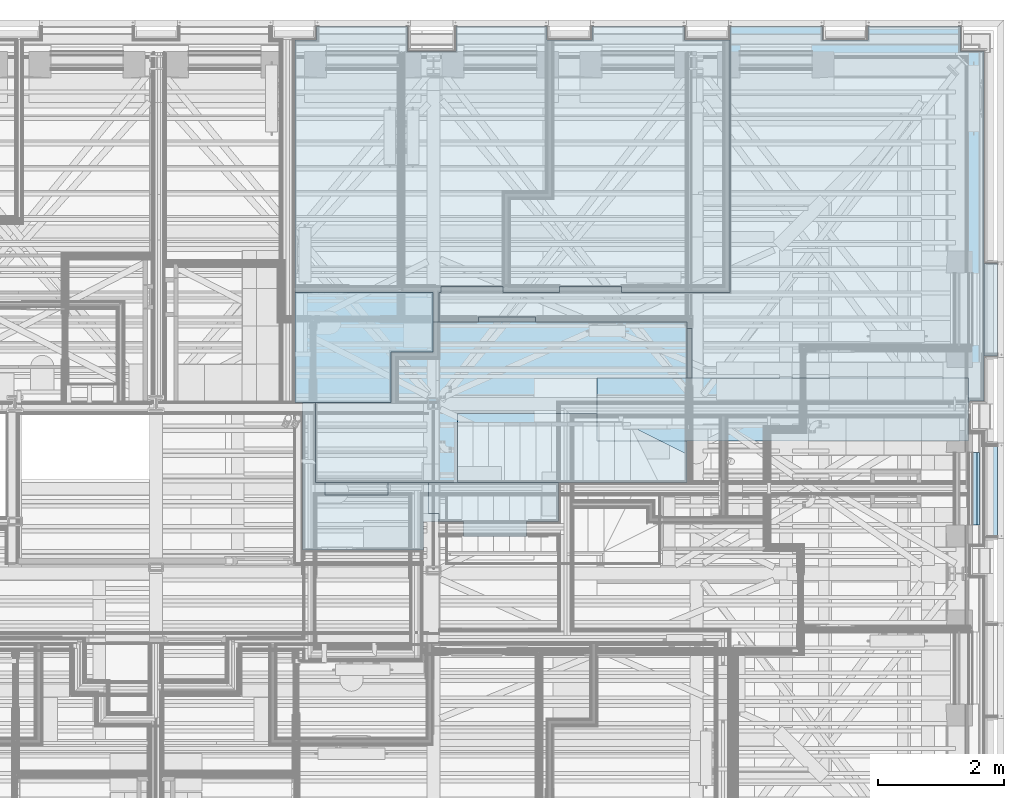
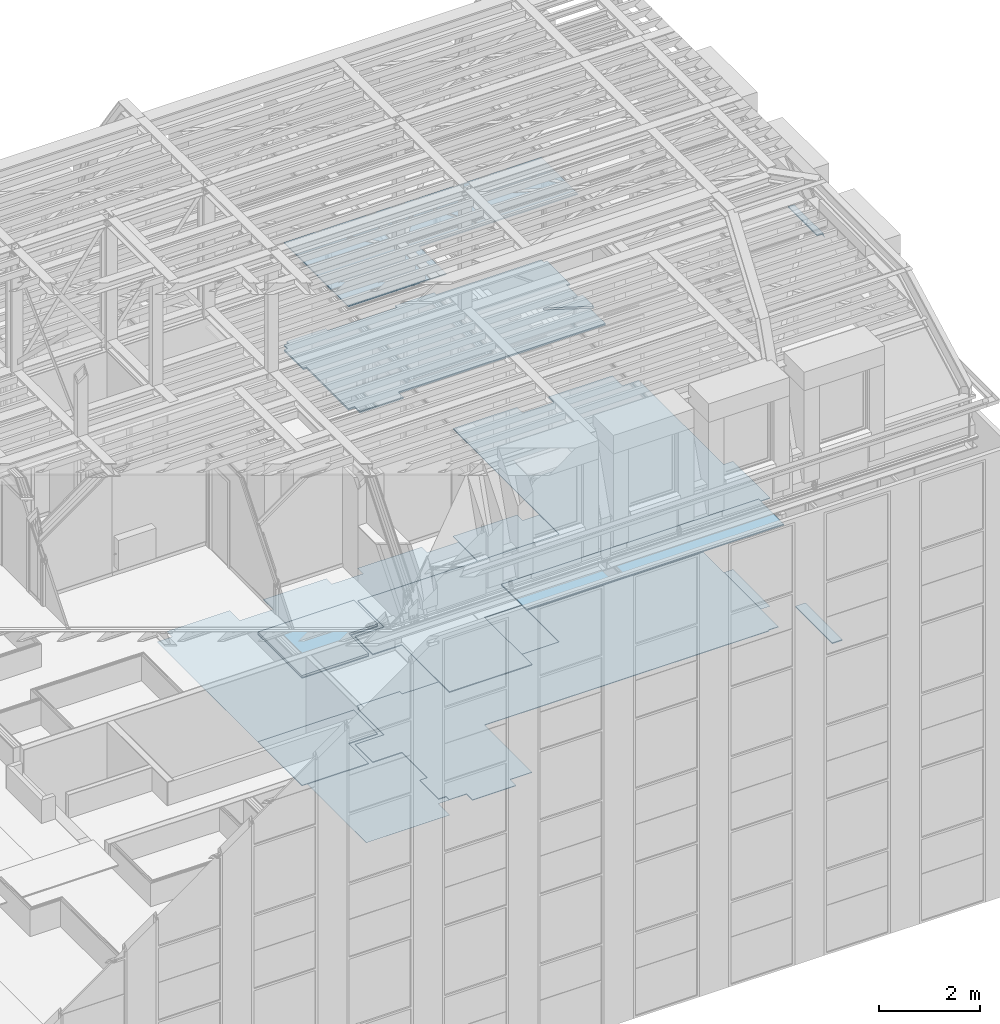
# One storey, part 94 of 183: 16 slabs.
"""IFC2X3 building model written with IfcOpenShell, lengths in metres."""

from ifc_helpers import new_model, entity, si_unit, converted_unit, derived_unit, money_unit, direction, frame, origin_with_axes, place, context, subcontext, project, spatial, faceted_brep, material, type_object, element, save


model = new_model("IFC2X3")

# Units and contexts
model_context = context("Model", 3, precision=1e-05, world=origin_with_axes(), true_north=direction((0.0, 1.0)))
body_context = subcontext(model_context, "Body", "Model", "MODEL_VIEW", scale=1.0)
ifc_project = project(units=[si_unit("LENGTHUNIT", "METRE"), si_unit("AREAUNIT", "SQUARE_METRE"), si_unit("VOLUMEUNIT", "CUBIC_METRE"), si_unit("ABSORBEDDOSEUNIT", "GRAY"), si_unit("AMOUNTOFSUBSTANCEUNIT", "MOLE"), si_unit("DOSEEQUIVALENTUNIT", "SIEVERT"), si_unit("ELECTRICCAPACITANCEUNIT", "FARAD"), si_unit("ELECTRICCHARGEUNIT", "COULOMB"), si_unit("ELECTRICCONDUCTANCEUNIT", "SIEMENS"), si_unit("ELECTRICCURRENTUNIT", "AMPERE"), si_unit("ELECTRICRESISTANCEUNIT", "OHM"), si_unit("ELECTRICVOLTAGEUNIT", "VOLT"), si_unit("ENERGYUNIT", "JOULE"), si_unit("FORCEUNIT", "NEWTON"), si_unit("FREQUENCYUNIT", "HERTZ"), si_unit("ILLUMINANCEUNIT", "LUX"), si_unit("INDUCTANCEUNIT", "HENRY"), si_unit("LUMINOUSFLUXUNIT", "LUMEN"), si_unit("LUMINOUSINTENSITYUNIT", "CANDELA"), si_unit("MAGNETICFLUXDENSITYUNIT", "TESLA"), si_unit("MAGNETICFLUXUNIT", "WEBER"), si_unit("MASSUNIT", "GRAM"), converted_unit("PLANEANGLEUNIT", "degree", entity("IfcReal", 0.0174532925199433), si_unit("PLANEANGLEUNIT", "RADIAN"), dimensions=[0, 0, 0, 0, 0, 0, 0]), si_unit("POWERUNIT", "WATT"), si_unit("PRESSUREUNIT", "PASCAL"), si_unit("RADIOACTIVITYUNIT", "BECQUEREL"), si_unit("SOLIDANGLEUNIT", "STERADIAN"), si_unit("THERMODYNAMICTEMPERATUREUNIT", "KELVIN"), si_unit("TIMEUNIT", "SECOND"), derived_unit("ACCELERATIONUNIT", [(si_unit("LENGTHUNIT", "METRE"), 1), (si_unit("TIMEUNIT", "SECOND"), -2)]), derived_unit("ANGULARVELOCITYUNIT", [(converted_unit("PLANEANGLEUNIT", "degree", entity("IfcReal", 0.0174532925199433), si_unit("PLANEANGLEUNIT", "RADIAN"), dimensions=[0, 0, 0, 0, 0, 0, 0]), 1), (si_unit("TIMEUNIT", "SECOND"), -1)]), derived_unit("CURVATUREUNIT", [(converted_unit("PLANEANGLEUNIT", "degree", entity("IfcReal", 0.0174532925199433), si_unit("PLANEANGLEUNIT", "RADIAN"), dimensions=[0, 0, 0, 0, 0, 0, 0]), 1), (si_unit("LENGTHUNIT", "METRE"), -1)]), derived_unit("DYNAMICVISCOSITYUNIT", [(si_unit("PRESSUREUNIT", "PASCAL"), 1), (si_unit("TIMEUNIT", "SECOND"), 1)]), derived_unit("HEATFLUXDENSITYUNIT", [(si_unit("POWERUNIT", "WATT"), 1), (si_unit("LENGTHUNIT", "METRE"), -2)]), derived_unit("HEATINGVALUEUNIT", [(si_unit("ENERGYUNIT", "JOULE"), 1), (si_unit("MASSUNIT", "GRAM"), -1)]), derived_unit("INTEGERCOUNTRATEUNIT", [(si_unit("TIMEUNIT", "SECOND"), -1)]), derived_unit("IONCONCENTRATIONUNIT", [(si_unit("MASSUNIT", "GRAM"), 1), (si_unit("VOLUMEUNIT", "CUBIC_METRE"), -1)]), derived_unit("ISOTHERMALMOISTURECAPACITYUNIT", [(si_unit("VOLUMEUNIT", "CUBIC_METRE"), 1), (si_unit("MASSUNIT", "GRAM"), -1)]), derived_unit("KINEMATICVISCOSITYUNIT", [(si_unit("AREAUNIT", "SQUARE_METRE"), 1), (si_unit("TIMEUNIT", "SECOND"), -1)]), derived_unit("LINEARFORCEUNIT", [(si_unit("FORCEUNIT", "NEWTON"), 1), (si_unit("LENGTHUNIT", "METRE"), -1)]), derived_unit("LINEARMOMENTUNIT", [(si_unit("FORCEUNIT", "NEWTON"), 1), (si_unit("LENGTHUNIT", "METRE"), -1)]), derived_unit("LINEARSTIFFNESSUNIT", [(si_unit("FORCEUNIT", "NEWTON"), 1), (si_unit("LENGTHUNIT", "METRE"), -1)]), derived_unit("LINEARVELOCITYUNIT", [(si_unit("LENGTHUNIT", "METRE"), 1), (si_unit("TIMEUNIT", "SECOND"), -1)]), derived_unit("LUMINOUSINTENSITYDISTRIBUTIONUNIT", [(si_unit("LUMINOUSINTENSITYUNIT", "CANDELA"), 1), (si_unit("LUMINOUSFLUXUNIT", "LUMEN"), -1)]), derived_unit("MASSDENSITYUNIT", [(si_unit("MASSUNIT", "GRAM"), 1), (si_unit("VOLUMEUNIT", "CUBIC_METRE"), -1)]), derived_unit("MASSFLOWRATEUNIT", [(si_unit("MASSUNIT", "GRAM"), 1), (si_unit("TIMEUNIT", "SECOND"), -1)]), derived_unit("MASSPERLENGTHUNIT", [(si_unit("MASSUNIT", "GRAM"), 1), (si_unit("LENGTHUNIT", "METRE"), -1)]), derived_unit("MODULUSOFELASTICITYUNIT", [(si_unit("FORCEUNIT", "NEWTON"), 1), (si_unit("AREAUNIT", "SQUARE_METRE"), -1)]), derived_unit("MODULUSOFLINEARSUBGRADEREACTIONUNIT", [(si_unit("FORCEUNIT", "NEWTON"), 1), (si_unit("LENGTHUNIT", "METRE"), -2)]), derived_unit("MODULUSOFROTATIONALSUBGRADEREACTIONUNIT", [(si_unit("FORCEUNIT", "NEWTON"), 1), (si_unit("LENGTHUNIT", "METRE"), 1)]), derived_unit("MODULUSOFSUBGRADEREACTIONUNIT", [(si_unit("FORCEUNIT", "NEWTON"), 1), (si_unit("VOLUMEUNIT", "CUBIC_METRE"), -1)]), derived_unit("MOISTUREDIFFUSIVITYUNIT", [(si_unit("VOLUMEUNIT", "CUBIC_METRE"), 1), (si_unit("TIMEUNIT", "SECOND"), -1)]), derived_unit("MOLECULARWEIGHTUNIT", [(si_unit("MASSUNIT", "GRAM"), 1), (si_unit("AMOUNTOFSUBSTANCEUNIT", "MOLE"), -1)]), derived_unit("PLANARFORCEUNIT", [(si_unit("FORCEUNIT", "NEWTON"), 1), (si_unit("LENGTHUNIT", "METRE"), -2)]), derived_unit("ROTATIONALFREQUENCYUNIT", [(si_unit("TIMEUNIT", "SECOND"), -1)]), derived_unit("ROTATIONALMASSUNIT", [(si_unit("MASSUNIT", "GRAM"), 1), (si_unit("LENGTHUNIT", "METRE"), 2)]), derived_unit("ROTATIONALSTIFFNESSUNIT", [(si_unit("FORCEUNIT", "NEWTON"), 1), (si_unit("LENGTHUNIT", "METRE"), 1), (converted_unit("PLANEANGLEUNIT", "degree", entity("IfcReal", 0.0174532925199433), si_unit("PLANEANGLEUNIT", "RADIAN"), dimensions=[0, 0, 0, 0, 0, 0, 0]), -1)]), derived_unit("SECTIONAREAINTEGRALUNIT", [(si_unit("LENGTHUNIT", "METRE"), 5)]), derived_unit("SECTIONMODULUSUNIT", [(si_unit("LENGTHUNIT", "METRE"), 3)]), derived_unit("SHEARMODULUSUNIT", [(si_unit("FORCEUNIT", "NEWTON"), 1), (si_unit("AREAUNIT", "SQUARE_METRE"), -1)]), derived_unit("SOUNDPOWERUNIT", [(si_unit("ENERGYUNIT", "JOULE"), 1), (si_unit("TIMEUNIT", "SECOND"), -1)]), derived_unit("SPECIFICHEATCAPACITYUNIT", [(si_unit("FORCEUNIT", "NEWTON"), 1), (si_unit("MASSUNIT", "GRAM"), -1), (si_unit("THERMODYNAMICTEMPERATUREUNIT", "KELVIN"), -1)]), derived_unit("TEMPERATUREGRADIENTUNIT", [(si_unit("THERMODYNAMICTEMPERATUREUNIT", "KELVIN"), 1), (si_unit("LENGTHUNIT", "METRE"), -1)]), derived_unit("THERMALADMITTANCEUNIT", [(si_unit("POWERUNIT", "WATT"), 1), (si_unit("AREAUNIT", "SQUARE_METRE"), -1), (si_unit("THERMODYNAMICTEMPERATUREUNIT", "KELVIN"), -1)]), derived_unit("THERMALCONDUCTANCEUNIT", [(si_unit("POWERUNIT", "WATT"), 1), (si_unit("LENGTHUNIT", "METRE"), -1), (si_unit("THERMODYNAMICTEMPERATUREUNIT", "KELVIN"), -1)]), derived_unit("THERMALEXPANSIONCOEFFICIENTUNIT", [(si_unit("THERMODYNAMICTEMPERATUREUNIT", "KELVIN"), -1)]), derived_unit("THERMALRESISTANCEUNIT", [(si_unit("AREAUNIT", "SQUARE_METRE"), 1), (si_unit("POWERUNIT", "WATT"), -1)]), derived_unit("THERMALTRANSMITTANCEUNIT", [(si_unit("POWERUNIT", "WATT"), 1), (si_unit("AREAUNIT", "SQUARE_METRE"), -1), (si_unit("THERMODYNAMICTEMPERATUREUNIT", "KELVIN"), -1)]), derived_unit("TORQUEUNIT", [(si_unit("FORCEUNIT", "NEWTON"), 1), (si_unit("LENGTHUNIT", "METRE"), 1)]), derived_unit("VAPORPERMEABILITYUNIT", [(si_unit("MASSUNIT", "GRAM"), 1), (si_unit("TIMEUNIT", "SECOND"), -1)]), derived_unit("VOLUMETRICFLOWRATEUNIT", [(si_unit("VOLUMEUNIT", "CUBIC_METRE"), 1), (si_unit("TIMEUNIT", "SECOND"), -1)]), derived_unit("WARPINGCONSTANTUNIT", [(si_unit("LENGTHUNIT", "METRE"), 6)]), derived_unit("WARPINGMOMENTUNIT", [(si_unit("FORCEUNIT", "NEWTON"), 1), (si_unit("LENGTHUNIT", "METRE"), 2)]), money_unit("GBP")], contexts=[model_context])

# Site, building, storey
site_placement = place(None, origin_with_axes())
site = spatial("IfcSite", under=ifc_project, at=site_placement, Name="Site", CompositionType="ELEMENT")
building_placement = place(site_placement, origin_with_axes())
building = spatial("IfcBuilding", under=site, at=building_placement, Name="Building01", CompositionType="ELEMENT")
storey_placement = place(building_placement, frame((0.0, 0.0, 5.15), z_axis=(0.0, 0.0, 1.0), x_axis=(1.0, 0.0, 0.0)))
storey = spatial("IfcBuildingStorey", under=building, at=storey_placement, Name="1F", CompositionType="ELEMENT", Elevation=5.15)

# Slabs
ifc_material_1 = material(Name="A_BSUK_ExpandedPolystyreneBoards")
slab_type_1 = type_object("IfcSlabType", Name="A-FloorsSlabs A_BSUK_Slabs", PredefinedType="FLOOR")
placement = place(storey_placement, frame((0.0, 0.0, -5.15), z_axis=(0.0, 0.0, 1.0), x_axis=(1.0, 0.0, 0.0)))
element("IfcSlab", 1, at=placement, inside=storey, type_object=slab_type_1, material=ifc_material_1, Name="A-FloorsSlabs A_BSUK_Slabs", ObjectType="CompoundSlabLeaf", context=body_context, shape_type="Brep", body=[
    faceted_brep([(15.83, 8.82, 5.15), (15.83, 8.82, 5.153), (15.708132, 8.82, 5.153), (15.708132, 8.82, 5.15), (15.83, 8.65, 5.15), (15.83, 8.65, 5.153), (15.83, 6.475, 5.15), (15.83, 6.475, 5.153), (17.75, 6.475, 5.15), (17.75, 6.475, 5.153), (17.75, 6.93, 5.15), (17.75, 6.93, 5.153), (18.0, 6.93, 5.15), (18.0, 6.93, 5.153), (18.392, 6.93, 5.15), (18.392, 6.93, 5.153), (18.392, 6.69, 5.15), (18.392, 6.69, 5.153), (19.392, 6.69, 5.15), (19.392, 6.69, 5.153), (19.392, 6.93, 5.15), (19.392, 6.93, 5.153), (19.897661, 6.93, 5.15), (19.897661, 6.93, 5.153), (19.897661, 8.82, 5.15), (19.897661, 8.82, 5.153), (26.432, 8.82, 5.15), (26.432, 8.82, 5.153), (26.432, 8.848, 5.15), (26.432, 8.848, 5.153), (26.662, 8.848, 5.15), (26.662, 8.848, 5.153), (26.662, 9.56218, 5.15), (26.662, 9.56218, 5.153), (26.88, 9.56218, 5.15), (26.88, 9.56218, 5.153), (26.88, 11.03218, 5.15), (26.88, 11.03218, 5.153), (26.662, 11.03218, 5.15), (26.662, 11.03218, 5.153), (26.662, 14.402, 5.15), (26.662, 14.402, 5.153), (26.285, 14.402, 5.15), (26.285, 14.402, 5.153), (26.285, 14.8, 5.15), (26.285, 14.8, 5.153), (24.815, 14.8, 5.15), (24.815, 14.8, 5.153), (24.815, 14.582, 5.15), (24.815, 14.582, 5.153), (24.095, 14.582, 5.15), (24.095, 14.582, 5.153), (24.095, 14.8, 5.15), (24.095, 14.8, 5.153), (22.625, 14.8, 5.15), (22.625, 14.8, 5.153), (22.625, 14.582, 5.15), (22.625, 14.582, 5.153), (21.905, 14.582, 5.15), (21.905, 14.582, 5.153), (21.905, 14.8, 5.15), (21.905, 14.8, 5.153), (20.435, 14.8, 5.15), (20.435, 14.8, 5.153), (20.435, 14.582, 5.15), (20.435, 14.582, 5.153), (19.715, 14.582, 5.15), (19.715, 14.582, 5.153), (19.715, 14.8, 5.15), (19.715, 14.8, 5.153), (18.268, 14.8, 5.15), (18.268, 14.8, 5.153), (18.268, 14.402, 5.15), (18.268, 14.402, 5.153), (17.502, 14.402, 5.15), (17.502, 14.402, 5.153), (17.502, 14.8, 5.15), (17.502, 14.8, 5.153), (16.055, 14.8, 5.15), (16.055, 14.8, 5.153), (16.055, 14.582, 5.15), (16.055, 14.582, 5.153), (15.708132, 14.582, 5.15), (15.708132, 14.582, 5.153)], [[[0, 1, 2, 3]], [[4, 5, 1, 0]], [[6, 7, 5, 4]], [[8, 9, 7, 6]], [[10, 11, 9, 8]], [[12, 13, 11, 10]], [[14, 15, 13, 12]], [[16, 17, 15, 14]], [[18, 19, 17, 16]], [[20, 21, 19, 18]], [[22, 23, 21, 20]], [[24, 25, 23, 22]], [[26, 27, 25, 24]], [[28, 29, 27, 26]], [[30, 31, 29, 28]], [[32, 33, 31, 30]], [[34, 35, 33, 32]], [[36, 37, 35, 34]], [[38, 39, 37, 36]], [[40, 41, 39, 38]], [[42, 43, 41, 40]], [[44, 45, 43, 42]], [[46, 47, 45, 44]], [[48, 49, 47, 46]], [[50, 51, 49, 48]], [[52, 53, 51, 50]], [[54, 55, 53, 52]], [[56, 57, 55, 54]], [[58, 59, 57, 56]], [[60, 61, 59, 58]], [[62, 63, 61, 60]], [[64, 65, 63, 62]], [[66, 67, 65, 64]], [[68, 69, 67, 66]], [[70, 71, 69, 68]], [[72, 73, 71, 70]], [[74, 75, 73, 72]], [[76, 77, 75, 74]], [[78, 79, 77, 76]], [[80, 81, 79, 78]], [[82, 83, 81, 80]], [[3, 2, 83, 82]], [[1, 5, 7, 9, 11, 13, 15, 17, 19, 21, 23, 25, 27, 29, 31, 33, 35, 37, 39, 41, 43, 45, 47, 49, 51, 53, 55, 57, 59, 61, 63, 65, 67, 69, 71, 73, 75, 77, 79, 81, 83, 2]], [[3, 82, 80, 78, 76, 74, 72, 70, 68, 66, 64, 62, 60, 58, 56, 54, 52, 50, 48, 46, 44, 42, 40, 38, 36, 34, 32, 30, 28, 26, 24, 22, 20, 18, 16, 14, 12, 10, 8, 6, 4, 0]]]),
])
ifc_material_2 = material(Name="A_BSUK_Parquet_Floor")
element("IfcSlab", 2, at=placement, inside=storey, type_object=slab_type_1, material=ifc_material_2, Name="A-FloorsSlabs A_BSUK_Slabs", ObjectType="CompoundSlabLeaf", context=body_context, shape_type="Brep", body=[
    faceted_brep([(18.392, 6.69, 5.153), (18.392, 6.69, 5.165), (18.392, 6.93, 5.165), (18.392, 6.93, 5.153), (19.392, 6.69, 5.153), (19.392, 6.69, 5.165), (19.392, 6.93, 5.153), (19.392, 6.93, 5.165), (19.897661, 6.93, 5.153), (19.897661, 6.93, 5.165), (19.897661, 8.82, 5.153), (19.897661, 8.82, 5.165), (26.432, 8.82, 5.153), (26.432, 8.82, 5.165), (26.432, 8.848, 5.153), (26.432, 8.848, 5.165), (26.662, 8.848, 5.153), (26.662, 8.848, 5.165), (26.662, 9.56218, 5.153), (26.662, 9.56218, 5.165), (26.662, 11.03218, 5.153), (26.662, 11.03218, 5.165), (26.662, 14.402, 5.153), (26.662, 14.402, 5.165), (26.285, 14.402, 5.153), (26.285, 14.402, 5.165), (26.285, 14.8, 5.153), (26.285, 14.8, 5.165), (24.815, 14.8, 5.153), (24.815, 14.8, 5.165), (24.815, 14.582, 5.153), (24.815, 14.582, 5.165), (24.095, 14.582, 5.153), (24.095, 14.582, 5.165), (24.095, 14.8, 5.153), (24.095, 14.8, 5.165), (22.625, 14.8, 5.153), (22.625, 14.8, 5.165), (22.625, 10.57, 5.153), (22.625, 10.57, 5.165), (20.902284, 10.57, 5.153), (20.902284, 10.57, 5.165), (20.902284, 10.665, 5.153), (20.902284, 10.665, 5.165), (19.918284, 10.665, 5.153), (19.918284, 10.665, 5.165), (19.918284, 10.57, 5.153), (19.918284, 10.57, 5.165), (19.017398, 10.57, 5.153), (19.017398, 10.57, 5.165), (19.017398, 10.665, 5.153), (19.017398, 10.665, 5.165), (18.033398, 10.665, 5.153), (18.033398, 10.665, 5.165), (18.033398, 10.57, 5.153), (18.033398, 10.57, 5.165), (18.0, 10.57, 5.153), (18.0, 10.57, 5.165), (18.0, 9.967396, 5.153), (18.0, 9.967396, 5.165), (18.0, 9.525, 5.153), (18.0, 9.525, 5.165), (17.333132, 9.525, 5.153), (17.333132, 9.525, 5.165), (17.333132, 8.82, 5.153), (17.333132, 8.82, 5.165), (17.905, 8.82, 5.153), (17.905, 8.82, 5.165), (18.0, 8.82, 5.153), (18.0, 8.82, 5.165), (18.0, 7.808, 5.153), (18.0, 7.808, 5.165), (17.83, 7.808, 5.153), (17.83, 7.808, 5.165), (17.83, 7.058, 5.153), (17.83, 7.058, 5.165), (18.0, 7.058, 5.153), (18.0, 7.058, 5.165), (18.0, 6.93, 5.153), (18.0, 6.93, 5.165)], [[[0, 1, 2, 3]], [[4, 5, 1, 0]], [[6, 7, 5, 4]], [[8, 9, 7, 6]], [[10, 11, 9, 8]], [[12, 13, 11, 10]], [[14, 15, 13, 12]], [[16, 17, 15, 14]], [[18, 19, 17, 16]], [[20, 21, 19, 18]], [[22, 23, 21, 20]], [[24, 25, 23, 22]], [[26, 27, 25, 24]], [[28, 29, 27, 26]], [[30, 31, 29, 28]], [[32, 33, 31, 30]], [[34, 35, 33, 32]], [[36, 37, 35, 34]], [[38, 39, 37, 36]], [[40, 41, 39, 38]], [[42, 43, 41, 40]], [[44, 45, 43, 42]], [[46, 47, 45, 44]], [[48, 49, 47, 46]], [[50, 51, 49, 48]], [[52, 53, 51, 50]], [[54, 55, 53, 52]], [[56, 57, 55, 54]], [[58, 59, 57, 56]], [[60, 61, 59, 58]], [[62, 63, 61, 60]], [[64, 65, 63, 62]], [[66, 67, 65, 64]], [[68, 69, 67, 66]], [[70, 71, 69, 68]], [[72, 73, 71, 70]], [[74, 75, 73, 72]], [[76, 77, 75, 74]], [[78, 79, 77, 76]], [[3, 2, 79, 78]], [[1, 5, 7, 9, 11, 13, 15, 17, 19, 21, 23, 25, 27, 29, 31, 33, 35, 37, 39, 41, 43, 45, 47, 49, 51, 53, 55, 57, 59, 61, 63, 65, 67, 69, 71, 73, 75, 77, 79, 2]], [[3, 78, 76, 74, 72, 70, 68, 66, 64, 62, 60, 58, 56, 54, 52, 50, 48, 46, 44, 42, 40, 38, 36, 34, 32, 30, 28, 26, 24, 22, 20, 18, 16, 14, 12, 10, 8, 6, 4, 0]]]),
])
ifc_material_3 = material(Name="A_BSUK_CeilingSoffitFinishes_Suspended")
element("IfcSlab", 3, at=placement, inside=storey, type_object=slab_type_1, material=ifc_material_3, Name="A-FloorsSlabs A_BSUK_Slabs", ObjectType="CompoundSlabLeaf", context=body_context, shape_type="Brep", body=[
    faceted_brep([(18.395, 6.93, 7.765), (18.395, 6.93, 7.78), (18.0, 6.93, 7.78), (18.0, 6.93, 7.765), (19.395, 6.93, 7.765), (19.395, 6.93, 7.78), (19.897661, 6.93, 7.765), (19.897661, 6.93, 7.78), (19.897661, 8.82, 7.765), (19.897661, 8.82, 7.78), (26.432, 8.82, 7.765), (26.432, 8.82, 7.78), (26.432, 8.848, 7.765), (26.432, 8.848, 7.78), (26.662, 8.848, 7.765), (26.662, 8.848, 7.78), (26.662, 9.56218, 7.765), (26.662, 9.56218, 7.78), (26.88, 9.56218, 7.765), (26.88, 9.56218, 7.78), (26.88, 11.03218, 7.765), (26.88, 11.03218, 7.78), (26.662, 11.03218, 7.765), (26.662, 11.03218, 7.78), (26.662, 14.402, 7.765), (26.662, 14.402, 7.78), (26.285, 14.402, 7.765), (26.285, 14.402, 7.78), (26.285, 14.8, 7.765), (26.285, 14.8, 7.78), (24.815, 14.8, 7.765), (24.815, 14.8, 7.78), (24.815, 14.582, 7.765), (24.815, 14.582, 7.78), (24.095, 14.582, 7.765), (24.095, 14.582, 7.78), (24.095, 14.8, 7.765), (24.095, 14.8, 7.78), (22.625, 14.8, 7.765), (22.625, 14.8, 7.78), (22.625, 10.57, 7.765), (22.625, 10.57, 7.78), (19.891284, 10.57, 7.765), (19.891284, 10.57, 7.78), (19.044398, 10.57, 7.765), (19.044398, 10.57, 7.78), (18.0, 10.57, 7.765), (18.0, 10.57, 7.78), (18.0, 9.525, 7.765), (18.0, 9.525, 7.78), (17.333132, 9.525, 7.765), (17.333132, 9.525, 7.78), (17.333132, 8.82, 7.765), (17.333132, 8.82, 7.78), (18.0, 8.82, 7.765), (18.0, 8.82, 7.78), (18.0, 7.82088, 7.765), (18.0, 7.82088, 7.78), (18.0, 7.02888, 7.765), (18.0, 7.02888, 7.78)], [[[0, 1, 2, 3]], [[4, 5, 1, 0]], [[6, 7, 5, 4]], [[8, 9, 7, 6]], [[10, 11, 9, 8]], [[12, 13, 11, 10]], [[14, 15, 13, 12]], [[16, 17, 15, 14]], [[18, 19, 17, 16]], [[20, 21, 19, 18]], [[22, 23, 21, 20]], [[24, 25, 23, 22]], [[26, 27, 25, 24]], [[28, 29, 27, 26]], [[30, 31, 29, 28]], [[32, 33, 31, 30]], [[34, 35, 33, 32]], [[36, 37, 35, 34]], [[38, 39, 37, 36]], [[40, 41, 39, 38]], [[42, 43, 41, 40]], [[44, 45, 43, 42]], [[46, 47, 45, 44]], [[48, 49, 47, 46]], [[50, 51, 49, 48]], [[52, 53, 51, 50]], [[54, 55, 53, 52]], [[56, 57, 55, 54]], [[58, 59, 57, 56]], [[3, 2, 59, 58]], [[1, 5, 7, 9, 11, 13, 15, 17, 19, 21, 23, 25, 27, 29, 31, 33, 35, 37, 39, 41, 43, 45, 47, 49, 51, 53, 55, 57, 59, 2]], [[3, 58, 56, 54, 52, 50, 48, 46, 44, 42, 40, 38, 36, 34, 32, 30, 28, 26, 24, 22, 20, 18, 16, 14, 12, 10, 8, 6, 4, 0]]]),
])
element("IfcSlab", 4, at=placement, inside=storey, type_object=slab_type_1, material=ifc_material_3, Name="A-FloorsSlabs A_BSUK_Slabs", ObjectType="CompoundSlabLeaf", context=body_context, shape_type="Brep", body=[
    faceted_brep([(15.708132, 10.57, 7.765), (15.708132, 10.57, 7.78), (17.905, 10.57, 7.78), (17.905, 10.57, 7.765), (15.708132, 8.82, 7.765), (15.708132, 8.82, 7.78), (17.238132, 8.82, 7.765), (17.238132, 8.82, 7.78), (17.238132, 9.62, 7.765), (17.238132, 9.62, 7.78), (17.905, 9.62, 7.765), (17.905, 9.62, 7.78)], [[[0, 1, 2, 3]], [[4, 5, 1, 0]], [[6, 7, 5, 4]], [[8, 9, 7, 6]], [[10, 11, 9, 8]], [[3, 2, 11, 10]], [[1, 5, 7, 9, 11, 2]], [[3, 10, 8, 6, 4, 0]]]),
])
ifc_material_4 = material(Name="A_BSUK_Ceramic_FloorTiles")
element("IfcSlab", 5, at=placement, inside=storey, type_object=slab_type_1, material=ifc_material_4, Name="A-FloorsSlabs A_BSUK_Slabs", ObjectType="CompoundSlabLeaf", context=body_context, shape_type="Brep", body=[
    faceted_brep([(15.708132, 8.82, 5.153), (15.708132, 8.82, 5.165), (15.708132, 10.57, 5.165), (15.708132, 10.57, 5.153), (17.238132, 8.82, 5.153), (17.238132, 8.82, 5.165), (17.238132, 9.62, 5.153), (17.238132, 9.62, 5.165), (17.905, 9.62, 5.153), (17.905, 9.62, 5.165), (17.905, 10.57, 5.153), (17.905, 10.57, 5.165)], [[[0, 1, 2, 3]], [[4, 5, 1, 0]], [[6, 7, 5, 4]], [[8, 9, 7, 6]], [[10, 11, 9, 8]], [[3, 2, 11, 10]], [[1, 5, 7, 9, 11, 2]], [[3, 10, 8, 6, 4, 0]]]),
])
ifc_material_5 = material(Name="A_BSUK_Timber_Miscellaneous")
element("IfcSlab", 6, at=placement, inside=storey, type_object=slab_type_1, material=ifc_material_5, Name="A-FloorsSlabs A_BSUK_Slabs", ObjectType="CompoundSlabLeaf", context=body_context, shape_type="Brep", body=[
    faceted_brep([(26.88, 6.682326, 6.065), (26.88, 6.682326, 6.09), (26.646998, 6.682326, 6.09), (26.646998, 6.682326, 6.065), (26.88, 8.152326, 6.065), (26.88, 8.152326, 6.09), (26.647, 8.152326, 6.065), (26.647, 8.152326, 6.09)], [[[0, 1, 2, 3]], [[4, 5, 1, 0]], [[6, 7, 5, 4]], [[3, 2, 7, 6]], [[1, 5, 7, 2]], [[3, 6, 4, 0]]]),
])
element("IfcSlab", 7, at=placement, inside=storey, type_object=slab_type_1, material=ifc_material_3, Name="A-FloorsSlabs A_BSUK_Slabs", ObjectType="CompoundSlabLeaf", context=body_context, shape_type="Brep", body=[
    faceted_brep([(20.510161, 8.2075, 8.115), (20.510161, 8.2075, 8.13), (20.510161, 9.2075, 8.13), (20.510161, 9.2075, 8.115), (26.417, 8.2075, 8.115), (26.417, 8.2075, 8.13), (26.417, 9.2075, 8.115), (26.417, 9.2075, 8.13)], [[[0, 1, 2, 3]], [[4, 5, 1, 0]], [[6, 7, 5, 4]], [[3, 2, 7, 6]], [[1, 5, 7, 2]], [[3, 6, 4, 0]]]),
])
element("IfcSlab", 8, at=placement, inside=storey, type_object=slab_type_1, material=ifc_material_3, Name="A-FloorsSlabs A_BSUK_Slabs", ObjectType="CompoundSlabLeaf", context=body_context, shape_type="Brep", body=[
    faceted_brep([(20.510161, 8.2075, 8.1), (20.510161, 8.2075, 8.115), (20.510161, 9.2075, 8.115), (20.510161, 9.2075, 8.1), (26.417, 8.2075, 8.1), (26.417, 8.2075, 8.115), (26.417, 9.2075, 8.1), (26.417, 9.2075, 8.115)], [[[0, 1, 2, 3]], [[4, 5, 1, 0]], [[6, 7, 5, 4]], [[3, 2, 7, 6]], [[1, 5, 7, 2]], [[3, 6, 4, 0]]]),
])
slab_9_placement = place(storey_placement, frame((26.404661, 8.024964, 10.78), z_axis=(0.0, 0.0, 1.0), x_axis=(0.0, -1.0, 0.0)))
element("IfcSlab", 9, at=slab_9_placement, inside=storey, type_object=slab_type_1, material=ifc_material_5, Name="A-FloorsSlabs A_BSUK_Slabs", ObjectType="A-FloorsSlabs A_BSUK_Slabs", context=body_context, shape_type="Brep", body=[
    faceted_brep([(0.0, 0.0, 0.0), (1.15, 0.0, 0.0), (1.15, 0.0, 0.022498), (0.0, 0.0, 0.022498), (1.15, 0.142391, 0.017505), (0.0, 0.142391, 0.017505), (1.15, 0.148079, 0.0), (0.0, 0.148079, 0.0)], [[[0, 1, 2, 3]], [[3, 2, 4, 5]], [[5, 4, 6, 7]], [[7, 6, 1, 0]], [[1, 6, 4, 2]], [[3, 5, 7, 0]]]),
])
ifc_material_6 = material(Name="A_BSUK_Steel_Miscellaneous")
slab_10_placement = place(storey_placement, frame((26.404661, 8.024964, 10.802498), z_axis=(0.0, 0.0, 1.0), x_axis=(0.0, -1.0, 0.0)))
element("IfcSlab", 10, at=slab_10_placement, inside=storey, type_object=slab_type_1, material=ifc_material_6, Name="A-FloorsSlabs A_BSUK_Slabs", ObjectType="A-FloorsSlabs A_BSUK_Slabs", context=body_context, shape_type="Brep", body=[
    faceted_brep([(0.0, 0.0, 0.0), (1.15, 0.0, 0.0), (1.15, 0.0, 0.007502), (0.0, 0.0, 0.007502), (1.15, 0.001, 0.007502), (0.0, 0.001, 0.007502), (1.15, 0.0025, 0.002414), (0.0, 0.0025, 0.002414), (1.15, 0.144228, -0.002556), (0.0, 0.144228, -0.002556), (1.15, 0.183199, -0.122498), (0.0, 0.183199, -0.122498), (1.15, 0.183199, -0.127498), (0.0, 0.183199, -0.127498), (1.15, 0.180699, -0.127498), (0.0, 0.180699, -0.127498), (1.15, 0.180699, -0.122894), (0.0, 0.180699, -0.122894), (1.15, 0.142391, -0.004993), (0.0, 0.142391, -0.004993)], [[[0, 1, 2, 3]], [[3, 2, 4, 5]], [[5, 4, 6, 7]], [[7, 6, 8, 9]], [[9, 8, 10, 11]], [[11, 10, 12, 13]], [[13, 12, 14, 15]], [[15, 14, 16, 17]], [[17, 16, 18, 19]], [[19, 18, 1, 0]], [[1, 18, 16, 14, 12, 10, 8, 6, 4, 2]], [[3, 5, 7, 9, 11, 13, 15, 17, 19, 0]]]),
])
element("IfcSlab", 11, at=placement, inside=storey, type_object=slab_type_1, material=ifc_material_3, Name="A-FloorsSlabs A_BSUK_Slabs", ObjectType="CompoundSlabLeaf", context=body_context, shape_type="Brep", body=[
    faceted_brep([(16.03844, 7.549915, 17.423), (16.03844, 7.549915, 17.438), (16.03844, 10.099939, 17.438), (16.03844, 10.099939, 17.423), (18.289976, 7.549915, 17.423), (18.289976, 7.549915, 17.438), (18.289976, 8.647427, 17.423), (18.289976, 8.647427, 17.438), (21.268457, 8.647427, 17.423), (21.268457, 8.647427, 17.438), (21.939976, 8.647427, 17.423), (21.939976, 8.647427, 17.438), (21.939976, 10.099939, 17.423), (21.939976, 10.099939, 17.438)], [[[0, 1, 2, 3]], [[4, 5, 1, 0]], [[6, 7, 5, 4]], [[8, 9, 7, 6]], [[10, 11, 9, 8]], [[12, 13, 11, 10]], [[3, 2, 13, 12]], [[1, 5, 7, 9, 11, 13, 2]], [[3, 12, 10, 8, 6, 4, 0]]]),
])
element("IfcSlab", 12, at=placement, inside=storey, type_object=slab_type_1, material=ifc_material_1, Name="A-FloorsSlabs A_BSUK_Slabs", ObjectType="CompoundSlabLeaf", context=body_context, shape_type="Brep", body=[
    faceted_brep([(16.03844, 9.961939, 14.92), (16.03844, 9.961939, 14.952), (16.03844, 10.099939, 14.952), (16.03844, 10.099939, 14.92), (15.95844, 9.961939, 14.92), (15.95844, 9.961939, 14.952), (15.95844, 9.211939, 14.92), (15.95844, 9.211939, 14.952), (16.03844, 9.211939, 14.92), (16.03844, 9.211939, 14.952), (16.03844, 7.549915, 14.92), (16.03844, 7.549915, 14.952), (16.18844, 7.549915, 14.92), (16.18844, 7.549915, 14.952), (16.18844, 7.349915, 14.92), (16.18844, 7.349915, 14.952), (17.18844, 7.349915, 14.92), (17.18844, 7.349915, 14.952), (17.18844, 7.549915, 14.92), (17.18844, 7.549915, 14.952), (18.289976, 7.549915, 14.92), (18.289976, 7.549915, 14.952), (21.268457, 7.549915, 14.92), (21.268457, 7.549915, 14.952), (21.939976, 7.549915, 14.92), (21.939976, 7.549915, 14.952), (21.939976, 9.099939, 14.92), (21.939976, 9.099939, 14.952), (22.019976, 9.099939, 14.92), (22.019976, 9.099939, 14.952), (22.019976, 9.999939, 14.92), (22.019976, 9.999939, 14.952), (21.939976, 9.999939, 14.92), (21.939976, 9.999939, 14.952), (21.939976, 10.099939, 14.92), (21.939976, 10.099939, 14.952), (20.749976, 10.099939, 14.92), (20.749976, 10.099939, 14.952), (19.849976, 10.099939, 14.92), (19.849976, 10.099939, 14.952), (19.529976, 10.099939, 14.92), (19.529976, 10.099939, 14.952), (19.529976, 10.179939, 14.92), (19.529976, 10.179939, 14.952), (18.629976, 10.179939, 14.92), (18.629976, 10.179939, 14.952), (18.629976, 10.099939, 14.92), (18.629976, 10.099939, 14.952), (17.03844, 10.099939, 14.92), (17.03844, 10.099939, 14.952), (17.03844, 10.179939, 14.92), (17.03844, 10.179939, 14.952), (16.13844, 10.179939, 14.92), (16.13844, 10.179939, 14.952), (16.13844, 10.099939, 14.92), (16.13844, 10.099939, 14.952)], [[[0, 1, 2, 3]], [[4, 5, 1, 0]], [[6, 7, 5, 4]], [[8, 9, 7, 6]], [[10, 11, 9, 8]], [[12, 13, 11, 10]], [[14, 15, 13, 12]], [[16, 17, 15, 14]], [[18, 19, 17, 16]], [[20, 21, 19, 18]], [[22, 23, 21, 20]], [[24, 25, 23, 22]], [[26, 27, 25, 24]], [[28, 29, 27, 26]], [[30, 31, 29, 28]], [[32, 33, 31, 30]], [[34, 35, 33, 32]], [[36, 37, 35, 34]], [[38, 39, 37, 36]], [[40, 41, 39, 38]], [[42, 43, 41, 40]], [[44, 45, 43, 42]], [[46, 47, 45, 44]], [[48, 49, 47, 46]], [[50, 51, 49, 48]], [[52, 53, 51, 50]], [[54, 55, 53, 52]], [[3, 2, 55, 54]], [[1, 5, 7, 9, 11, 13, 15, 17, 19, 21, 23, 25, 27, 29, 31, 33, 35, 37, 39, 41, 43, 45, 47, 49, 51, 53, 55, 2]], [[3, 54, 52, 50, 48, 46, 44, 42, 40, 38, 36, 34, 32, 30, 28, 26, 24, 22, 20, 18, 16, 14, 12, 10, 8, 6, 4, 0]]]),
])
element("IfcSlab", 13, at=placement, inside=storey, type_object=slab_type_1, material=ifc_material_3, Name="A-FloorsSlabs A_BSUK_Slabs", ObjectType="CompoundSlabLeaf", context=body_context, shape_type="Brep", body=[
    faceted_brep([(16.03844, 7.549915, 17.438), (16.03844, 7.549915, 17.453), (16.03844, 10.099939, 17.453), (16.03844, 10.099939, 17.438), (18.289976, 7.549915, 17.438), (18.289976, 7.549915, 17.453), (18.289976, 8.647427, 17.438), (18.289976, 8.647427, 17.453), (21.268457, 8.647427, 17.438), (21.268457, 8.647427, 17.453), (21.939976, 8.647427, 17.438), (21.939976, 8.647427, 17.453), (21.939976, 10.099939, 17.438), (21.939976, 10.099939, 17.453)], [[[0, 1, 2, 3]], [[4, 5, 1, 0]], [[6, 7, 5, 4]], [[8, 9, 7, 6]], [[10, 11, 9, 8]], [[12, 13, 11, 10]], [[3, 2, 13, 12]], [[1, 5, 7, 9, 11, 13, 2]], [[3, 12, 10, 8, 6, 4, 0]]]),
])
ifc_material_7 = material(Name="A_BSUK_Slabs")
element("IfcSlab", 14, at=placement, inside=storey, type_object=slab_type_1, material=ifc_material_7, Name="A-FloorsSlabs A_BSUK_Slabs", ObjectType="CompoundSlabLeaf", context=body_context, shape_type="Brep", body=[
    faceted_brep([(21.939976, 7.999915, 15.06), (21.939976, 7.999915, 15.11), (21.039976, 8.449915, 15.11), (21.039976, 8.449915, 15.06), (21.939976, 8.449915, 15.06), (21.939976, 8.449915, 15.11)], [[[0, 1, 2, 3]], [[4, 5, 1, 0]], [[3, 2, 5, 4]], [[1, 5, 2]], [[3, 4, 0]]]),
])
slab_type_2 = type_object("IfcSlabType", Name="A-FloorsSlabs A_BSUK_ExpandedPolystyreneBoards", PredefinedType="FLOOR")
element("IfcSlab", 15, at=placement, inside=storey, type_object=slab_type_2, material=ifc_material_1, Name="A-FloorsSlabs A_BSUK_ExpandedPolystyreneBoards", ObjectType="CompoundSlabLeaf", context=body_context, shape_type="Brep", body=[
    faceted_brep([(15.708132, 10.57, 7.78), (15.708132, 10.57, 7.83), (17.905, 10.57, 7.83), (17.905, 10.57, 7.78), (15.708132, 8.82, 7.78), (15.708132, 8.82, 7.83), (17.238132, 8.82, 7.78), (17.238132, 8.82, 7.83), (17.238132, 9.62, 7.78), (17.238132, 9.62, 7.83), (17.905, 9.62, 7.78), (17.905, 9.62, 7.83)], [[[0, 1, 2, 3]], [[4, 5, 1, 0]], [[6, 7, 5, 4]], [[8, 9, 7, 6]], [[10, 11, 9, 8]], [[3, 2, 11, 10]], [[1, 5, 7, 9, 11, 2]], [[3, 10, 8, 6, 4, 0]]]),
])
ifc_material_8 = material(Name="A_BSUK_InternalFinishes_Floor")
slab_type_3 = type_object("IfcSlabType", Name="A-FloorsSlabs A_BSUK_InternalFinishes_FloorScreed", PredefinedType="FLOOR")
element("IfcSlab", 16, at=placement, inside=storey, type_object=slab_type_3, material=ifc_material_8, Name="A-FloorsSlabs A_BSUK_InternalFinishes_FloorScreed", ObjectType="CompoundSlabLeaf", context=body_context, shape_type="Brep", body=[
    faceted_brep([(16.03844, 9.961939, 14.952), (16.03844, 9.961939, 14.964), (16.03844, 10.099939, 14.964), (16.03844, 10.099939, 14.952), (15.95844, 9.961939, 14.952), (15.95844, 9.961939, 14.964), (15.95844, 9.211939, 14.952), (15.95844, 9.211939, 14.964), (16.03844, 9.211939, 14.952), (16.03844, 9.211939, 14.964), (16.03844, 7.549915, 14.952), (16.03844, 7.549915, 14.964), (16.18844, 7.549915, 14.952), (16.18844, 7.549915, 14.964), (16.18844, 7.349915, 14.952), (16.18844, 7.349915, 14.964), (17.18844, 7.349915, 14.952), (17.18844, 7.349915, 14.964), (17.18844, 7.549915, 14.952), (17.18844, 7.549915, 14.964), (18.289976, 7.549915, 14.952), (18.289976, 7.549915, 14.964), (21.268457, 7.549915, 14.952), (21.268457, 7.549915, 14.964), (21.939976, 7.549915, 14.952), (21.939976, 7.549915, 14.964), (21.939976, 9.099939, 14.952), (21.939976, 9.099939, 14.964), (22.019976, 9.099939, 14.952), (22.019976, 9.099939, 14.964), (22.019976, 9.999939, 14.952), (22.019976, 9.999939, 14.964), (21.939976, 9.999939, 14.952), (21.939976, 9.999939, 14.964), (21.939976, 10.099939, 14.952), (21.939976, 10.099939, 14.964), (20.749976, 10.099939, 14.952), (20.749976, 10.099939, 14.964), (19.849976, 10.099939, 14.952), (19.849976, 10.099939, 14.964), (19.529976, 10.099939, 14.952), (19.529976, 10.099939, 14.964), (19.529976, 10.179939, 14.952), (19.529976, 10.179939, 14.964), (18.629976, 10.179939, 14.952), (18.629976, 10.179939, 14.964), (18.629976, 10.099939, 14.952), (18.629976, 10.099939, 14.964), (17.03844, 10.099939, 14.952), (17.03844, 10.099939, 14.964), (17.03844, 10.179939, 14.952), (17.03844, 10.179939, 14.964), (16.13844, 10.179939, 14.952), (16.13844, 10.179939, 14.964), (16.13844, 10.099939, 14.952), (16.13844, 10.099939, 14.964)], [[[0, 1, 2, 3]], [[4, 5, 1, 0]], [[6, 7, 5, 4]], [[8, 9, 7, 6]], [[10, 11, 9, 8]], [[12, 13, 11, 10]], [[14, 15, 13, 12]], [[16, 17, 15, 14]], [[18, 19, 17, 16]], [[20, 21, 19, 18]], [[22, 23, 21, 20]], [[24, 25, 23, 22]], [[26, 27, 25, 24]], [[28, 29, 27, 26]], [[30, 31, 29, 28]], [[32, 33, 31, 30]], [[34, 35, 33, 32]], [[36, 37, 35, 34]], [[38, 39, 37, 36]], [[40, 41, 39, 38]], [[42, 43, 41, 40]], [[44, 45, 43, 42]], [[46, 47, 45, 44]], [[48, 49, 47, 46]], [[50, 51, 49, 48]], [[52, 53, 51, 50]], [[54, 55, 53, 52]], [[3, 2, 55, 54]], [[1, 5, 7, 9, 11, 13, 15, 17, 19, 21, 23, 25, 27, 29, 31, 33, 35, 37, 39, 41, 43, 45, 47, 49, 51, 53, 55, 2]], [[3, 54, 52, 50, 48, 46, 44, 42, 40, 38, 36, 34, 32, 30, 28, 26, 24, 22, 20, 18, 16, 14, 12, 10, 8, 6, 4, 0]]]),
])

save(model, "model.ifc")
